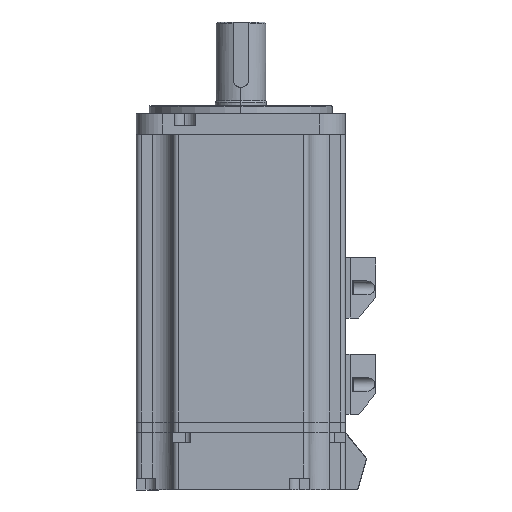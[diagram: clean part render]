
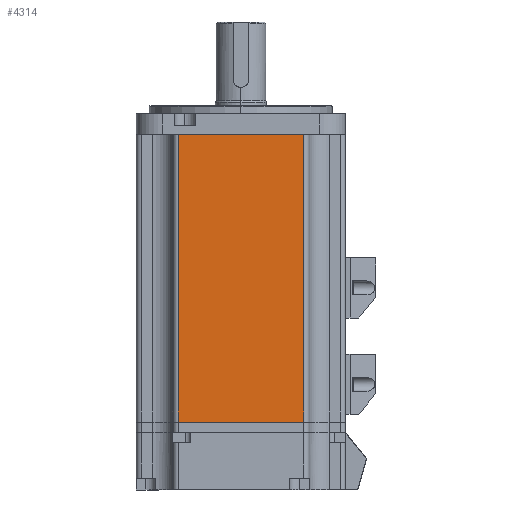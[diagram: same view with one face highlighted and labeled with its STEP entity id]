
A CAD part, left-side view. The second image highlights one B-rep face of the part: STEP entity #4314.
In plain terms, the highlighted planar face has unit normal (-1, 0, 0) as drawn and (1, 0, 0) by its records, which use the part's own axes.
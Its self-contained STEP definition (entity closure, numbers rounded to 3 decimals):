
#65 = LINE ( 'NONE', #5493, #18263 ) ;
#807 = CARTESIAN_POINT ( 'NONE',  ( 40., 110., 24. ) ) ;
#1077 = EDGE_CURVE ( 'NONE', #4904, #20420, #5995, .T. ) ;
#1386 = CARTESIAN_POINT ( 'NONE',  ( 40., 110., -24. ) ) ;
#1884 = DIRECTION ( 'NONE',  ( 0., -1., 0. ) ) ;
#2095 = VERTEX_POINT ( 'NONE', #807 ) ;
#4314 = ADVANCED_FACE ( 'NONE', ( #21469 ), #21234, .F. ) ;
#4904 = VERTEX_POINT ( 'NONE', #5838 ) ;
#5039 = DIRECTION ( 'NONE',  ( 0., -1., 0. ) ) ;
#5493 = CARTESIAN_POINT ( 'NONE',  ( 40., 110., 24. ) ) ;
#5838 = CARTESIAN_POINT ( 'NONE',  ( 40., 0., 24. ) ) ;
#5995 = LINE ( 'NONE', #20271, #19506 ) ;
#6139 = EDGE_CURVE ( 'NONE', #21946, #20420, #11927, .T. ) ;
#7672 = DIRECTION ( 'NONE',  ( 0., 0., -1. ) ) ;
#8922 = ORIENTED_EDGE ( 'NONE', *, *, #6139, .F. ) ;
#9815 = ORIENTED_EDGE ( 'NONE', *, *, #1077, .T. ) ;
#11927 = LINE ( 'NONE', #1386, #14755 ) ;
#14237 = CARTESIAN_POINT ( 'NONE',  ( 40., 110., -24. ) ) ;
#14465 = EDGE_CURVE ( 'NONE', #2095, #21946, #65, .T. ) ;
#14755 = VECTOR ( 'NONE', #5039, 1000. ) ;
#15673 = CARTESIAN_POINT ( 'NONE',  ( 40., 110., 24. ) ) ;
#16687 = ORIENTED_EDGE ( 'NONE', *, *, #14465, .F. ) ;
#17152 = ORIENTED_EDGE ( 'NONE', *, *, #22400, .T. ) ;
#17258 = CARTESIAN_POINT ( 'NONE',  ( 40., 0., -24. ) ) ;
#18263 = VECTOR ( 'NONE', #22001, 1000. ) ;
#19350 = DIRECTION ( 'NONE',  ( -1., 0., 0. ) ) ;
#19506 = VECTOR ( 'NONE', #7672, 1000. ) ;
#19678 = LINE ( 'NONE', #23239, #22465 ) ;
#20271 = CARTESIAN_POINT ( 'NONE',  ( 40., 0., 24. ) ) ;
#20420 = VERTEX_POINT ( 'NONE', #17258 ) ;
#20761 = AXIS2_PLACEMENT_3D ( 'NONE', #15673, #19350, #23017 ) ;
#21234 = PLANE ( 'NONE',  #20761 ) ;
#21469 = FACE_OUTER_BOUND ( 'NONE', #21610, .T. ) ;
#21610 = EDGE_LOOP ( 'NONE', ( #9815, #8922, #16687, #17152 ) ) ;
#21946 = VERTEX_POINT ( 'NONE', #14237 ) ;
#22001 = DIRECTION ( 'NONE',  ( 0., 0., -1. ) ) ;
#22400 = EDGE_CURVE ( 'NONE', #2095, #4904, #19678, .T. ) ;
#22465 = VECTOR ( 'NONE', #1884, 1000. ) ;
#23017 = DIRECTION ( 'NONE',  ( 0., 0., 1. ) ) ;
#23239 = CARTESIAN_POINT ( 'NONE',  ( 40., 110., 24. ) ) ;
